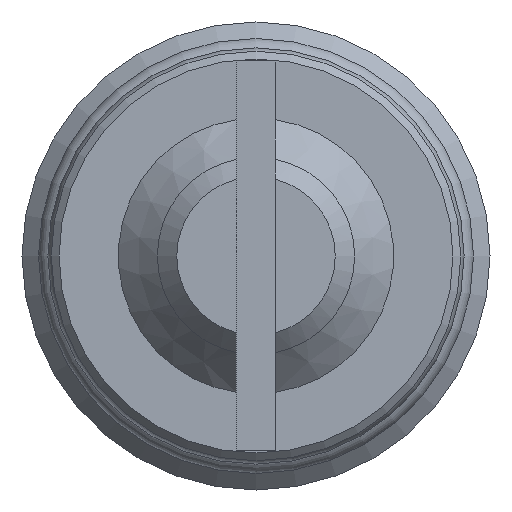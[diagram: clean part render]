
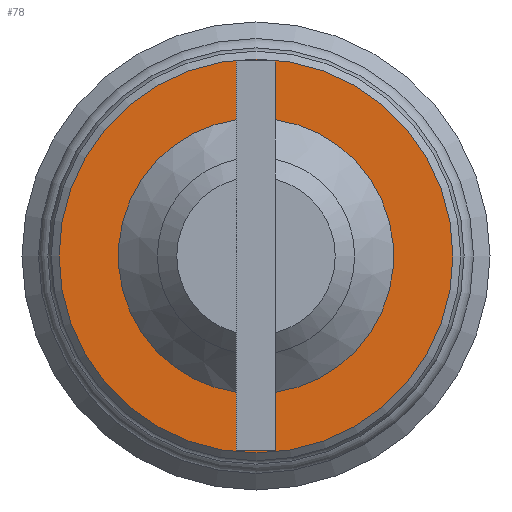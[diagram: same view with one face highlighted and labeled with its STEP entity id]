
A CAD part, left-side view. The second image highlights one B-rep face of the part: STEP entity #78.
In plain terms, the highlighted planar face has unit normal (-1, 0, 0).
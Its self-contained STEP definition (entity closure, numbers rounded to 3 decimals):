
#78 = ADVANCED_FACE( '', ( #196, #197 ), #198, .F. );
#196 = FACE_OUTER_BOUND( '', #365, .T. );
#197 = FACE_BOUND( '', #366, .T. );
#198 = PLANE( '', #367 );
#365 = EDGE_LOOP( '', ( #545 ) );
#366 = EDGE_LOOP( '', ( #546, #547, #548, #549, #550, #551, #552, #553 ) );
#367 = AXIS2_PLACEMENT_3D( '', #554, #555, #556 );
#545 = ORIENTED_EDGE( '', *, *, #938, .F. );
#546 = ORIENTED_EDGE( '', *, *, #939, .T. );
#547 = ORIENTED_EDGE( '', *, *, #940, .T. );
#548 = ORIENTED_EDGE( '', *, *, #941, .T. );
#549 = ORIENTED_EDGE( '', *, *, #942, .T. );
#550 = ORIENTED_EDGE( '', *, *, #943, .T. );
#551 = ORIENTED_EDGE( '', *, *, #944, .T. );
#552 = ORIENTED_EDGE( '', *, *, #945, .T. );
#553 = ORIENTED_EDGE( '', *, *, #946, .T. );
#554 = CARTESIAN_POINT( '', ( 0., 0., 0. ) );
#555 = DIRECTION( '', ( 1., 0., 0. ) );
#556 = DIRECTION( '', ( 0., 0., -1. ) );
#938 = EDGE_CURVE( '', #1108, #1108, #1109, .T. );
#939 = EDGE_CURVE( '', #1110, #1111, #1112, .T. );
#940 = EDGE_CURVE( '', #1111, #1113, #1114, .T. );
#941 = EDGE_CURVE( '', #1113, #1115, #1116, .T. );
#942 = EDGE_CURVE( '', #1115, #1117, #1118, .T. );
#943 = EDGE_CURVE( '', #1117, #1119, #1120, .T. );
#944 = EDGE_CURVE( '', #1119, #1121, #1122, .T. );
#945 = EDGE_CURVE( '', #1121, #1123, #1124, .T. );
#946 = EDGE_CURVE( '', #1123, #1110, #1125, .T. );
#1108 = VERTEX_POINT( '', #1346 );
#1109 = CIRCLE( '', #1347, 5.05 );
#1110 = VERTEX_POINT( '', #1348 );
#1111 = VERTEX_POINT( '', #1349 );
#1112 = CIRCLE( '', #1350, 3.53 );
#1113 = VERTEX_POINT( '', #1351 );
#1114 = LINE( '', #1352, #1353 );
#1115 = VERTEX_POINT( '', #1354 );
#1116 = LINE( '', #1355, #1356 );
#1117 = VERTEX_POINT( '', #1357 );
#1118 = LINE( '', #1358, #1359 );
#1119 = VERTEX_POINT( '', #1360 );
#1120 = CIRCLE( '', #1361, 3.53 );
#1121 = VERTEX_POINT( '', #1362 );
#1122 = LINE( '', #1363, #1364 );
#1123 = VERTEX_POINT( '', #1365 );
#1124 = LINE( '', #1366, #1367 );
#1125 = LINE( '', #1368, #1369 );
#1346 = CARTESIAN_POINT( '', ( 0., 0., -5.05 ) );
#1347 = AXIS2_PLACEMENT_3D( '', #1660, #1661, #1662 );
#1348 = CARTESIAN_POINT( '', ( 0., -0.5, 3.494 ) );
#1349 = CARTESIAN_POINT( '', ( 0., -0.5, -3.494 ) );
#1350 = AXIS2_PLACEMENT_3D( '', #1663, #1664, #1665 );
#1351 = CARTESIAN_POINT( '', ( 0., -0.5, -5. ) );
#1352 = CARTESIAN_POINT( '', ( 0., -0.5, 5. ) );
#1353 = VECTOR( '', #1666, 1000. );
#1354 = CARTESIAN_POINT( '', ( 0., 0.5, -5. ) );
#1355 = CARTESIAN_POINT( '', ( 0., -0.5, -5. ) );
#1356 = VECTOR( '', #1667, 1000. );
#1357 = CARTESIAN_POINT( '', ( 0., 0.5, -3.494 ) );
#1358 = CARTESIAN_POINT( '', ( 0., 0.5, -5. ) );
#1359 = VECTOR( '', #1668, 1000. );
#1360 = CARTESIAN_POINT( '', ( 0., 0.5, 3.494 ) );
#1361 = AXIS2_PLACEMENT_3D( '', #1669, #1670, #1671 );
#1362 = CARTESIAN_POINT( '', ( 0., 0.5, 5. ) );
#1363 = CARTESIAN_POINT( '', ( 0., 0.5, -5. ) );
#1364 = VECTOR( '', #1672, 1000. );
#1365 = CARTESIAN_POINT( '', ( 0., -0.5, 5. ) );
#1366 = CARTESIAN_POINT( '', ( 0., 0.5, 5. ) );
#1367 = VECTOR( '', #1673, 1000. );
#1368 = CARTESIAN_POINT( '', ( 0., -0.5, 5. ) );
#1369 = VECTOR( '', #1674, 1000. );
#1660 = CARTESIAN_POINT( '', ( 0., 0., 0. ) );
#1661 = DIRECTION( '', ( 1., 0., 0. ) );
#1662 = DIRECTION( '', ( 0., 0., -1. ) );
#1663 = CARTESIAN_POINT( '', ( 0., 0., 0. ) );
#1664 = DIRECTION( '', ( 1., 0., 0. ) );
#1665 = DIRECTION( '', ( 0., 0., -1. ) );
#1666 = DIRECTION( '', ( 0., 0., -1. ) );
#1667 = DIRECTION( '', ( 0., 1., 0. ) );
#1668 = DIRECTION( '', ( 0., 0., 1. ) );
#1669 = CARTESIAN_POINT( '', ( 0., 0., 0. ) );
#1670 = DIRECTION( '', ( 1., 0., 0. ) );
#1671 = DIRECTION( '', ( 0., 0., -1. ) );
#1672 = DIRECTION( '', ( 0., 0., 1. ) );
#1673 = DIRECTION( '', ( 0., -1., 0. ) );
#1674 = DIRECTION( '', ( 0., 0., -1. ) );
